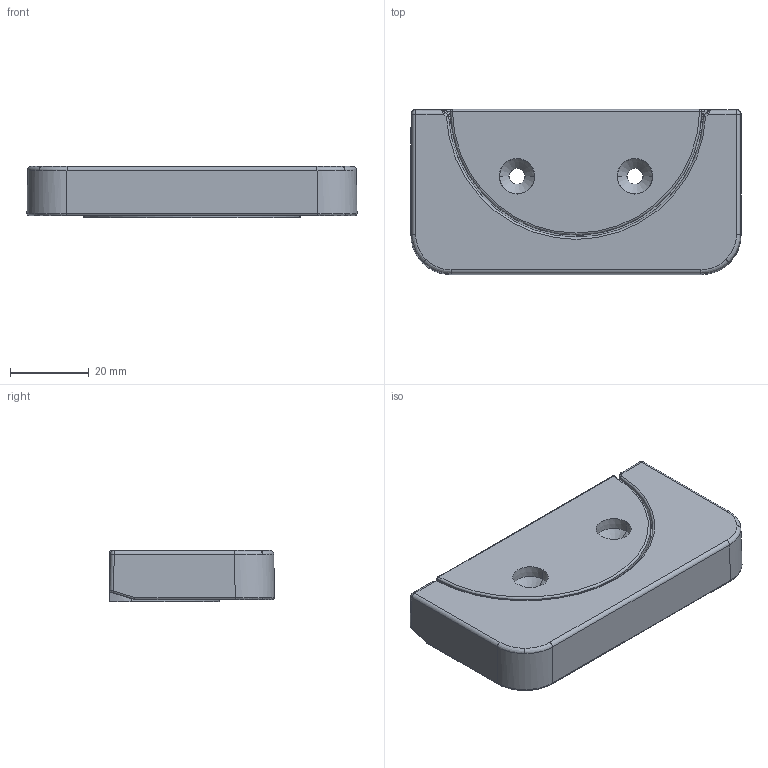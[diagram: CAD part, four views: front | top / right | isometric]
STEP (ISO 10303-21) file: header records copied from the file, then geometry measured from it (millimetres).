
FILE_DESCRIPTION (( 'STEP AP203' ), '1' );
FILE_NAME ('ƒ}ƒOƒlƒbƒgƒWƒ‡ƒ', '2026-02-09T05:32:27', ( '' ), ( '' ), 'SwSTEP 2.0', 'SolidWorks 2025', '' );
FILE_SCHEMA (( 'CONFIG_CONTROL_DESIGN' ));
Length unit declared in the file: millimetre
Products named in the file (1): マグネットジョイント
Bounding box: 83.98 x 41.99 x 13 mm (x, y, z)
Surface area: 17307.1 mm2 (no closed solid volume)
Topology: 0 solids, 8 shells, 358 faces, 1238 edges, 862 vertices
Faces by surface type: plane 99, bspline 89, cylinder 72, cone 43, sphere 33, torus 22
Entity records: 15328 total; most frequent: CARTESIAN_POINT 5676, ORIENTED_EDGE 1979, DIRECTION 1815, EDGE_CURVE 1220, VERTEX_POINT 858, AXIS2_PLACEMENT_3D 660, VECTOR 495, LINE 495
